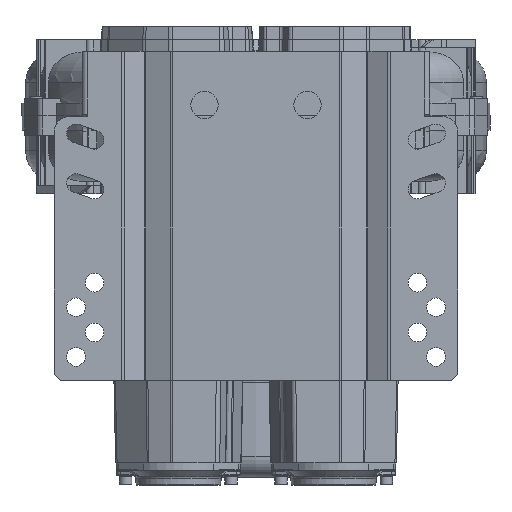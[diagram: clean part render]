
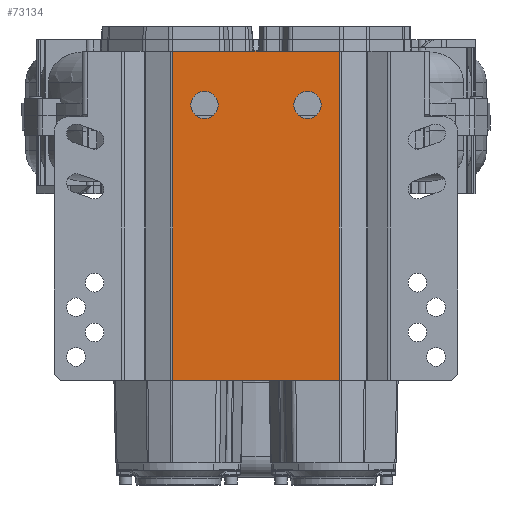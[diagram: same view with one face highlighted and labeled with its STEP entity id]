
A CAD part, front view. The second image highlights one B-rep face of the part: STEP entity #73134.
In plain terms, the highlighted planar face has unit normal (0, -1, 0).
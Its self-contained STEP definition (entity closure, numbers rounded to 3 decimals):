
#324 = CARTESIAN_POINT ( 'NONE',  ( -67.005, -207., 103.2 ) ) ;
#2005 = PLANE ( 'NONE',  #44936 ) ;
#2558 = EDGE_LOOP ( 'NONE', ( #78625 ) ) ;
#3559 = DIRECTION ( 'NONE',  ( -1., 0., 0. ) ) ;
#4552 = DIRECTION ( 'NONE',  ( 0., 0., -1. ) ) ;
#9217 = DIRECTION ( 'NONE',  ( 0., 1., 0. ) ) ;
#16869 = ORIENTED_EDGE ( 'NONE', *, *, #86949, .F. ) ;
#17355 = FACE_OUTER_BOUND ( 'NONE', #97272, .T. ) ;
#18787 = VECTOR ( 'NONE', #3559, 1000. ) ;
#18917 = FACE_BOUND ( 'NONE', #63268, .T. ) ;
#19440 = CARTESIAN_POINT ( 'NONE',  ( 67.005, -207., 103.2 ) ) ;
#19551 = AXIS2_PLACEMENT_3D ( 'NONE', #80066, #87487, #39806 ) ;
#19561 = EDGE_CURVE ( 'NONE', #92885, #66440, #21463, .T. ) ;
#21206 = CIRCLE ( 'NONE', #19551, 11. ) ;
#21463 = LINE ( 'NONE', #103072, #32469 ) ;
#25102 = DIRECTION ( 'NONE',  ( -1., 0., 0. ) ) ;
#28929 = AXIS2_PLACEMENT_3D ( 'NONE', #71801, #9217, #25102 ) ;
#31989 = CARTESIAN_POINT ( 'NONE',  ( -67.005, -207., 103.2 ) ) ;
#32469 = VECTOR ( 'NONE', #4552, 1000. ) ;
#33794 = CARTESIAN_POINT ( 'NONE',  ( 67.005, -207., 103.2 ) ) ;
#34854 = FACE_BOUND ( 'NONE', #2558, .T. ) ;
#36097 = VERTEX_POINT ( 'NONE', #31989 ) ;
#36412 = DIRECTION ( 'NONE',  ( -1., 0., 0. ) ) ;
#39806 = DIRECTION ( 'NONE',  ( 1., 0., 0. ) ) ;
#40953 = CARTESIAN_POINT ( 'NONE',  ( -67.005, -207., -161.8 ) ) ;
#41329 = CARTESIAN_POINT ( 'NONE',  ( 67.005, -207., -161.8 ) ) ;
#44522 = ORIENTED_EDGE ( 'NONE', *, *, #52984, .F. ) ;
#44936 = AXIS2_PLACEMENT_3D ( 'NONE', #33794, #75138, #104415 ) ;
#47566 = VERTEX_POINT ( 'NONE', #40953 ) ;
#48002 = EDGE_CURVE ( 'NONE', #92885, #36097, #59773, .T. ) ;
#48837 = ORIENTED_EDGE ( 'NONE', *, *, #48002, .T. ) ;
#52984 = EDGE_CURVE ( 'NONE', #53603, #53603, #21206, .T. ) ;
#53603 = VERTEX_POINT ( 'NONE', #95905 ) ;
#57069 = EDGE_CURVE ( 'NONE', #64170, #64170, #64445, .T. ) ;
#59773 = LINE ( 'NONE', #19440, #101690 ) ;
#62466 = ORIENTED_EDGE ( 'NONE', *, *, #19561, .F. ) ;
#63268 = EDGE_LOOP ( 'NONE', ( #44522 ) ) ;
#63449 = DIRECTION ( 'NONE',  ( 0., 0., -1. ) ) ;
#64170 = VERTEX_POINT ( 'NONE', #81579 ) ;
#64445 = CIRCLE ( 'NONE', #28929, 11. ) ;
#64480 = LINE ( 'NONE', #324, #86549 ) ;
#66440 = VERTEX_POINT ( 'NONE', #96597 ) ;
#71801 = CARTESIAN_POINT ( 'NONE',  ( 41.5, -207., 60.2 ) ) ;
#73134 = ADVANCED_FACE ( 'NONE', ( #34854, #17355, #18917 ), #2005, .T. ) ;
#74009 = ORIENTED_EDGE ( 'NONE', *, *, #78931, .T. ) ;
#75138 = DIRECTION ( 'NONE',  ( 0., -1., 0. ) ) ;
#78625 = ORIENTED_EDGE ( 'NONE', *, *, #57069, .T. ) ;
#78931 = EDGE_CURVE ( 'NONE', #36097, #47566, #64480, .T. ) ;
#79534 = CARTESIAN_POINT ( 'NONE',  ( 67.005, -207., 103.2 ) ) ;
#80066 = CARTESIAN_POINT ( 'NONE',  ( -41.5, -207., 60.2 ) ) ;
#81579 = CARTESIAN_POINT ( 'NONE',  ( 30.5, -207., 60.2 ) ) ;
#82637 = LINE ( 'NONE', #41329, #18787 ) ;
#86549 = VECTOR ( 'NONE', #63449, 1000. ) ;
#86949 = EDGE_CURVE ( 'NONE', #66440, #47566, #82637, .T. ) ;
#87487 = DIRECTION ( 'NONE',  ( 0., -1., 0. ) ) ;
#92885 = VERTEX_POINT ( 'NONE', #79534 ) ;
#95905 = CARTESIAN_POINT ( 'NONE',  ( -30.5, -207., 60.2 ) ) ;
#96597 = CARTESIAN_POINT ( 'NONE',  ( 67.005, -207., -161.8 ) ) ;
#97272 = EDGE_LOOP ( 'NONE', ( #16869, #62466, #48837, #74009 ) ) ;
#101690 = VECTOR ( 'NONE', #36412, 1000. ) ;
#103072 = CARTESIAN_POINT ( 'NONE',  ( 67.005, -207., 103.2 ) ) ;
#104415 = DIRECTION ( 'NONE',  ( -1., 0., 0. ) ) ;
